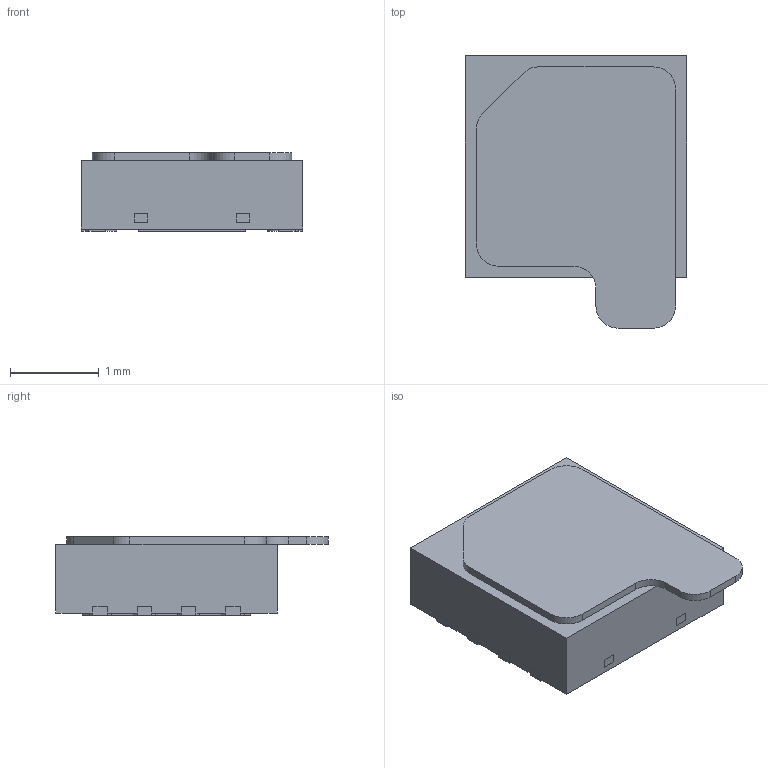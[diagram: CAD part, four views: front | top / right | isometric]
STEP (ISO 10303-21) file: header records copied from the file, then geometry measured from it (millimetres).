
FILE_DESCRIPTION((''),'2;1');
FILE_NAME('DEH0008A_ASM','2021-08-20T09:51:38',('a0412086'),(''),'CREO PARAMETRIC BY PTC INC, 2018500','CREO PARAMETRIC BY PTC INC, 2018500','');
FILE_SCHEMA(('CONFIG_CONTROL_DESIGN','SHAPE_APPEARANCE_LAYERS_GROUPS'));
Length unit declared in the file: millimetre
Products named in the file (5): BODY-SON; FRAME-DEH0008A; SENSOR_AREA; KAPTON_TAPE; DEH0008A_ASM
Assembly tree (4 placements, depth 2):
  DEH0008A_ASM
    BODY-SON
    FRAME-DEH0008A
    SENSOR_AREA
    KAPTON_TAPE
Bounding box: 2.5 x 3.08 x 0.89 mm (x, y, z)
Volume: 5.2 mm3; surface area: 41.5 mm2
Topology: 15 solids, 15 shells, 228 faces, 574 edges, 382 vertices
Faces by surface type: plane 201, cylinder 23, torus 2, cone 2
Entity records: 8788 total; most frequent: CARTESIAN_POINT 1193, ORIENTED_EDGE 1148, DIRECTION 1102, PRESENTATION_STYLE_ASSIGNMENT 601, STYLED_ITEM 589, CURVE_STYLE 574, EDGE_CURVE 574, VECTOR 520
